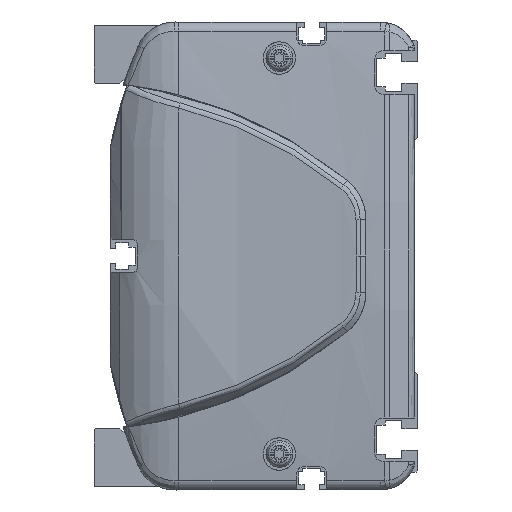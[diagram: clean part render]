
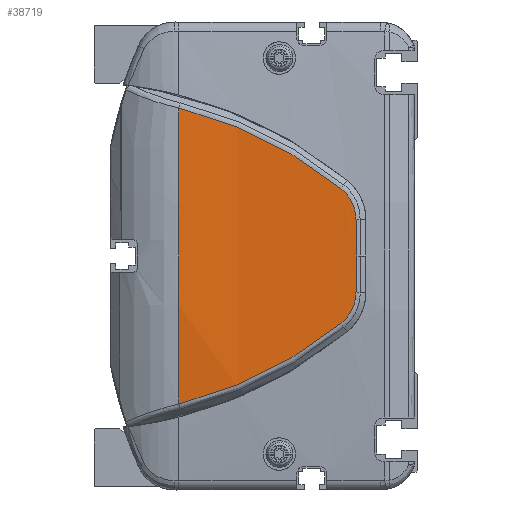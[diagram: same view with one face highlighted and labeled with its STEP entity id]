
A CAD part, left-side view. The second image highlights one B-rep face of the part: STEP entity #38719.
In plain terms, the highlighted cylindrical face has radius 500 mm (diameter 1000 mm), a partial arc.
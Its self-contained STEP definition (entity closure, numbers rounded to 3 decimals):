
#34961=CARTESIAN_POINT('',(486.,66.362,0.));
#34962=DIRECTION('',(0.,-1.,0.));
#34963=DIRECTION('',(-0.997,0.,0.082));
#34964=AXIS2_PLACEMENT_3D('',#34961,#34962,#34963);
#35838=CARTESIAN_POINT('',(-13.648,21.313,
-18.759));
#35839=CARTESIAN_POINT('',(-13.449,27.904,
-24.058));
#35840=CARTESIAN_POINT('',(-12.934,42.195,
-33.27));
#35841=CARTESIAN_POINT('',(-12.471,58.156,
-39.127));
#35842=CARTESIAN_POINT('',(-12.306,66.362,
-41.121));
#35844=CARTESIAN_POINT('',(-12.306,66.362,
41.121));
#35845=CARTESIAN_POINT('',(-12.471,58.156,
39.127));
#35846=CARTESIAN_POINT('',(-12.934,42.195,
33.27));
#35847=CARTESIAN_POINT('',(-13.449,27.904,
24.058));
#35848=CARTESIAN_POINT('',(-13.648,21.313,
18.759));
#35850=CARTESIAN_POINT('',(-13.648,21.313,
18.759));
#35851=CARTESIAN_POINT('',(-13.686,20.035,
17.736));
#35852=CARTESIAN_POINT('',(-13.779,17.936,
15.107));
#35853=CARTESIAN_POINT('',(-13.863,17.152,
11.827));
#35854=CARTESIAN_POINT('',(-13.896,17.124,
10.178));
#35856=CARTESIAN_POINT('',(-13.896,17.124,
10.178));
#35857=CARTESIAN_POINT('',(-13.92,17.107,
9.026));
#35858=CARTESIAN_POINT('',(-13.959,17.067,
6.735));
#35859=CARTESIAN_POINT('',(-13.993,16.98,
3.34));
#35860=CARTESIAN_POINT('',(-14.,16.898,
1.108));
#35861=CARTESIAN_POINT('',(-14.,16.849,
0.));
#35863=CARTESIAN_POINT('',(-14.,16.849,
0.));
#35864=CARTESIAN_POINT('',(-14.,16.898,
-1.108));
#35865=CARTESIAN_POINT('',(-13.993,16.98,
-3.341));
#35866=CARTESIAN_POINT('',(-13.959,17.067,
-6.734));
#35867=CARTESIAN_POINT('',(-13.92,17.107,
-9.028));
#35868=CARTESIAN_POINT('',(-13.896,17.124,
-10.18));
#35870=CARTESIAN_POINT('',(-13.896,17.124,
-10.18));
#35871=CARTESIAN_POINT('',(-13.863,17.152,
-11.828));
#35872=CARTESIAN_POINT('',(-13.779,17.937,
-15.109));
#35873=CARTESIAN_POINT('',(-13.686,20.035,
-17.736));
#35874=CARTESIAN_POINT('',(-13.648,21.313,
-18.759));
#36539=VERTEX_POINT('',#35838);
#36540=VERTEX_POINT('',#35842);
#36541=CARTESIAN_POINT('',(-12.306,66.362,
41.121));
#36542=VERTEX_POINT('',#36541);
#36543=VERTEX_POINT('',#35848);
#36544=VERTEX_POINT('',#35854);
#36545=VERTEX_POINT('',#35861);
#36546=VERTEX_POINT('',#35868);
#38700=CARTESIAN_POINT('',(486.,8.006,0.));
#38701=DIRECTION('',(0.,1.,0.));
#38702=DIRECTION('',(1.,0.,0.));
#38703=AXIS2_PLACEMENT_3D('',#38700,#38701,#38702);
#38704=CYLINDRICAL_SURFACE('',#38703,500.);
#38706=ORIENTED_EDGE('',*,*,#38705,.T.);
#38707=ORIENTED_EDGE('',*,*,#37340,.F.);
#38709=ORIENTED_EDGE('',*,*,#38708,.T.);
#38711=ORIENTED_EDGE('',*,*,#38710,.T.);
#38713=ORIENTED_EDGE('',*,*,#38712,.T.);
#38715=ORIENTED_EDGE('',*,*,#38714,.T.);
#38716=ORIENTED_EDGE('',*,*,#38690,.T.);
#38717=EDGE_LOOP('',(#38706,#38707,#38709,#38711,#38713,#38715,#38716));
#38718=FACE_OUTER_BOUND('',#38717,.F.);
#38719=ADVANCED_FACE('',(#38718),#38704,.T.);
#34965=CIRCLE('',#34964,500.);
#35843=B_SPLINE_CURVE_WITH_KNOTS('',3,(#35838,#35839,#35840,#35841,#35842),
.UNSPECIFIED.,.F.,.F.,(4,1,4),(0.,0.5,1.),.UNSPECIFIED.);
#35849=B_SPLINE_CURVE_WITH_KNOTS('',3,(#35844,#35845,#35846,#35847,#35848),
.UNSPECIFIED.,.F.,.F.,(4,1,4),(0.,0.5,1.),.UNSPECIFIED.);
#35855=B_SPLINE_CURVE_WITH_KNOTS('',3,(#35850,#35851,#35852,#35853,#35854),
.UNSPECIFIED.,.F.,.F.,(4,1,4),(0.,0.5,1.),.UNSPECIFIED.);
#35862=B_SPLINE_CURVE_WITH_KNOTS('',3,(#35856,#35857,#35858,#35859,#35860,
#35861),.UNSPECIFIED.,.F.,.F.,(4,1,1,4),(0.,0.333,
0.667,1.),.UNSPECIFIED.);
#35869=B_SPLINE_CURVE_WITH_KNOTS('',3,(#35863,#35864,#35865,#35866,#35867,
#35868),.UNSPECIFIED.,.F.,.F.,(4,1,1,4),(0.,0.333,
0.667,1.),.UNSPECIFIED.);
#35875=B_SPLINE_CURVE_WITH_KNOTS('',3,(#35870,#35871,#35872,#35873,#35874),
.UNSPECIFIED.,.F.,.F.,(4,1,4),(0.,0.5,1.),.UNSPECIFIED.);
#37340=EDGE_CURVE('',#36542,#36540,#34965,.T.);
#38690=EDGE_CURVE('',#36546,#36539,#35875,.T.);
#38705=EDGE_CURVE('',#36539,#36540,#35843,.T.);
#38708=EDGE_CURVE('',#36542,#36543,#35849,.T.);
#38710=EDGE_CURVE('',#36543,#36544,#35855,.T.);
#38712=EDGE_CURVE('',#36544,#36545,#35862,.T.);
#38714=EDGE_CURVE('',#36545,#36546,#35869,.T.);
